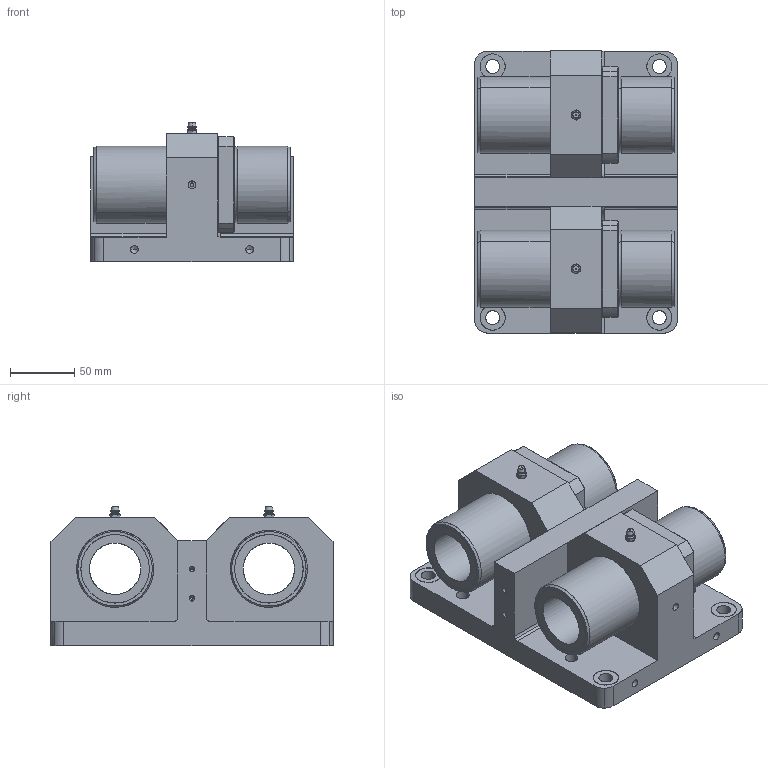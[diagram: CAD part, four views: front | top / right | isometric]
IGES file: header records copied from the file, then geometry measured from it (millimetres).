
Global section: file name: No Iges File Name specified; native system: AutoDesk Inventor R10; preprocessor: AutoDesk Inventor Iges Exporter R10; author: No Author specified; organization: No Organization specified; date: 20101227.101154; units: millimetre
Bounding box: 158 x 220 x 108.79 mm (x, y, z)
Surface area: 278252.8 mm2 (no closed solid volume)
Topology: 0 solids, 0 shells, 580 faces, 3725 edges, 3667 vertices
Faces by surface type: bspline 580
